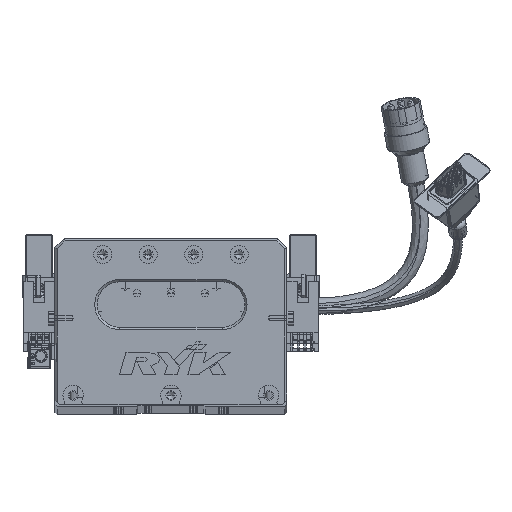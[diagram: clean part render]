
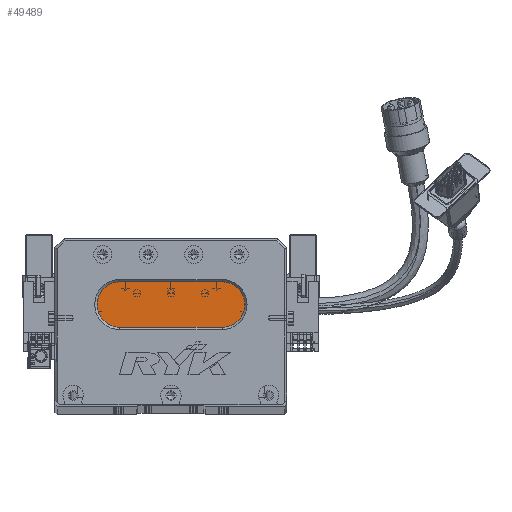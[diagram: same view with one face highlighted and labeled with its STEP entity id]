
A CAD part, top view. The second image highlights one B-rep face of the part: STEP entity #49489.
In plain terms, the highlighted planar face has unit normal (0, 0, 1) as drawn and (0, 0, -1) by its records, which use the part's own axes.
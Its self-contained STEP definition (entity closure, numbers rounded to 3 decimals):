
#1881 = DIRECTION ( 'NONE',  ( 0., 0., -1. ) ) ;
#2242 = VERTEX_POINT ( 'NONE', #20184 ) ;
#5161 = DIRECTION ( 'NONE',  ( 0., 0., -1. ) ) ;
#5374 = LINE ( 'NONE', #30826, #23971 ) ;
#9634 = EDGE_CURVE ( 'NONE', #30953, #2242, #37800, .T. ) ;
#10500 = ORIENTED_EDGE ( 'NONE', *, *, #49419, .T. ) ;
#11919 = CARTESIAN_POINT ( 'NONE',  ( 73.5, 44., 13. ) ) ;
#13608 = CARTESIAN_POINT ( 'NONE',  ( 18.5, 44., 13. ) ) ;
#14596 = CIRCLE ( 'NONE', #54348, 10. ) ;
#14950 = CARTESIAN_POINT ( 'NONE',  ( 28.5, 34., 13. ) ) ;
#15629 = ORIENTED_EDGE ( 'NONE', *, *, #59450, .T. ) ;
#16116 = DIRECTION ( 'NONE',  ( 0., 0., -1. ) ) ;
#16954 = AXIS2_PLACEMENT_3D ( 'NONE', #19059, #1881, #61108 ) ;
#17320 = EDGE_CURVE ( 'NONE', #2242, #18974, #22016, .T. ) ;
#17334 = VERTEX_POINT ( 'NONE', #13608 ) ;
#17340 = FACE_OUTER_BOUND ( 'NONE', #37314, .T. ) ;
#18974 = VERTEX_POINT ( 'NONE', #19338 ) ;
#19059 = CARTESIAN_POINT ( 'NONE',  ( 73.5, 44., 13. ) ) ;
#19338 = CARTESIAN_POINT ( 'NONE',  ( 73.5, 34., 13. ) ) ;
#20179 = ORIENTED_EDGE ( 'NONE', *, *, #9634, .T. ) ;
#20184 = CARTESIAN_POINT ( 'NONE',  ( 73.5, 54., 13. ) ) ;
#21607 = ORIENTED_EDGE ( 'NONE', *, *, #48863, .T. ) ;
#22016 = CIRCLE ( 'NONE', #16954, 10. ) ;
#23014 = DIRECTION ( 'NONE',  ( -1., 0., 0. ) ) ;
#23115 = PLANE ( 'NONE',  #69220 ) ;
#23971 = VECTOR ( 'NONE', #73279, 1000. ) ;
#25332 = DIRECTION ( 'NONE',  ( 1., 0., 0. ) ) ;
#28270 = CARTESIAN_POINT ( 'NONE',  ( 28.5, 44., 13. ) ) ;
#30826 = CARTESIAN_POINT ( 'NONE',  ( 73.5, 34., 13. ) ) ;
#30953 = VERTEX_POINT ( 'NONE', #55094 ) ;
#31642 = AXIS2_PLACEMENT_3D ( 'NONE', #28270, #75909, #23014 ) ;
#33820 = ORIENTED_EDGE ( 'NONE', *, *, #17320, .T. ) ;
#35025 = VECTOR ( 'NONE', #25332, 1000. ) ;
#36107 = CARTESIAN_POINT ( 'NONE',  ( 73.5, 54., 13. ) ) ;
#37314 = EDGE_LOOP ( 'NONE', ( #33820, #21607, #10500, #15629, #20179 ) ) ;
#37800 = LINE ( 'NONE', #36107, #35025 ) ;
#48863 = EDGE_CURVE ( 'NONE', #18974, #53219, #5374, .T. ) ;
#48994 = CIRCLE ( 'NONE', #31642, 10. ) ;
#49419 = EDGE_CURVE ( 'NONE', #53219, #17334, #14596, .T. ) ;
#49489 = ADVANCED_FACE ( 'NONE', ( #17340 ), #23115, .T. ) ;
#53219 = VERTEX_POINT ( 'NONE', #14950 ) ;
#53700 = DIRECTION ( 'NONE',  ( -1., 0., 0. ) ) ;
#54348 = AXIS2_PLACEMENT_3D ( 'NONE', #75491, #16116, #57875 ) ;
#55094 = CARTESIAN_POINT ( 'NONE',  ( 28.5, 54., 13. ) ) ;
#57875 = DIRECTION ( 'NONE',  ( -1., 0., 0. ) ) ;
#59450 = EDGE_CURVE ( 'NONE', #17334, #30953, #48994, .T. ) ;
#61108 = DIRECTION ( 'NONE',  ( -1., 0., 0. ) ) ;
#69220 = AXIS2_PLACEMENT_3D ( 'NONE', #11919, #5161, #53700 ) ;
#73279 = DIRECTION ( 'NONE',  ( -1., 0., 0. ) ) ;
#75491 = CARTESIAN_POINT ( 'NONE',  ( 28.5, 44., 13. ) ) ;
#75909 = DIRECTION ( 'NONE',  ( 0., 0., -1. ) ) ;
